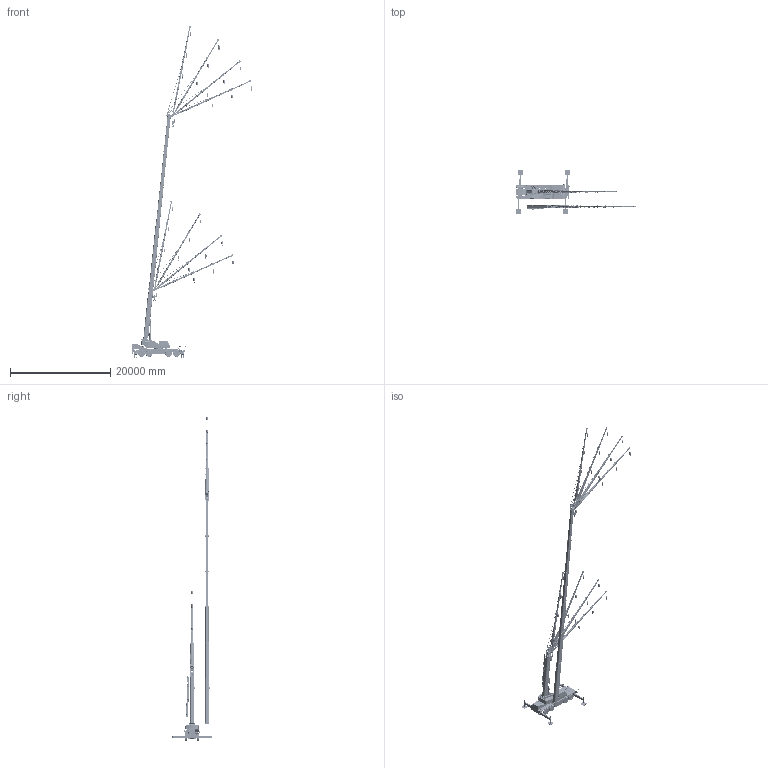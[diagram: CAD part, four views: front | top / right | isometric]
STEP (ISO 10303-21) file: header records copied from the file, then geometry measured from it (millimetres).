
FILE_DESCRIPTION(('CATIA V5 STEP Exchange','CAx-IF Rec.Pracs.--- Model Styling and Organization---1.4--- 2014-01-23'),'2;1');
FILE_NAME('\\Iba001\cad\CR\HP用CADデータ\18A\SL-750Rf3\3D\SL-750Rf3 3D.stp','2025-04-14T03:14:40+00:00',('none'),('none'),'CATIA Version 5-6 Release 2017 SP5 HF78','CATIA V5 STEP AP214','none');
FILE_SCHEMA(('AUTOMOTIVE_DESIGN { 1 0 10303 214 1 1 1 1 }'));
Products named in the file (50): SL-750Rf3 3D; SL-750Rf3 UPPER; SL-750Rf3 UPPER STRUCTURE; SL-750Rf3 TABLE; SL-750Rf3 CAB; SL-750Rf3 MACHINE ROOM; SL-750Rf3 DERRICK CYLINDER-1; SL-750Rf3 DERRICK CYLINDER-2; SL-750Rf3 BOOM JIB Min; SL-750Rf3 BOOM Min; SL-750Rf3 BOOM1; SL-750Rf3 BOOM2; SL-750Rf3 BOOM3; SL-750Rf3 BOOM4; SL-750Rf3 BOOM5; SL-750Rf3 BOOM6; SL-750Rf3 JIB; SL-750Rf3 JIB 9.52m 5deg; SL-750Rf3 JIB1; SL-750Rf3 JIB2; SL-750Rf3 JIB3; SL-750Rf3 JIB4; SL-750Rf3 JIB TENSION ROD; SL-750Rf3 JIB 9.52m 25deg; SL-750Rf3 JIB 9.52m 45deg; SL-750Rf3 JIB 9.52m 60deg; SL-750Rf3 JIB 13.8m 5deg; SL-750Rf3 JIB 13.8m 25deg; SL-750Rf3 JIB 13.8m 45deg; SL-750Rf3 JIB 13.8m 60deg; SL-750Rf3 JIB 18.0m 5deg; SL-750Rf3 JIB 18.0m 25deg; SL-750Rf3 JIB 18.0m 45deg; SL-750Rf3 JIB 18.0m 60deg; SL-750Rf3 JIB Stowed; SL-750Rf3 JIB TENSION ROD Stowed; SL-750Rf3 HOOK 5.6t; SL-750Rf3 HOOK 35t; SL-750Rf3 BOOM JIB Max; SL-750Rf3 BOOM Max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
Assembly tree (150 placements, depth 6):
  SL-750Rf3 3D
    SL-750Rf3 UPPER
      SL-750Rf3 UPPER STRUCTURE
        SL-750Rf3 TABLE
        SL-750Rf3 CAB
        SL-750Rf3 MACHINE ROOM
        SL-750Rf3 DERRICK CYLINDER-1
        SL-750Rf3 DERRICK CYLINDER-2
      SL-750Rf3 BOOM JIB Min
        SL-750Rf3 BOOM Min
          SL-750Rf3 BOOM1
          SL-750Rf3 BOOM2
          SL-750Rf3 BOOM3
          SL-750Rf3 BOOM4
          SL-750Rf3 BOOM5
          SL-750Rf3 BOOM6
        SL-750Rf3 JIB
          SL-750Rf3 JIB 9.52m 5deg
            SL-750Rf3 JIB1
            SL-750Rf3 JIB2
            SL-750Rf3 JIB3
            SL-750Rf3 JIB4
            SL-750Rf3 JIB TENSION ROD
          SL-750Rf3 JIB 9.52m 25deg
            SL-750Rf3 JIB1
            SL-750Rf3 JIB2
            SL-750Rf3 JIB3
            SL-750Rf3 JIB4
            SL-750Rf3 JIB TENSION ROD
          SL-750Rf3 JIB 9.52m 45deg
            SL-750Rf3 JIB1
            SL-750Rf3 JIB2
            SL-750Rf3 JIB3
            SL-750Rf3 JIB4
            SL-750Rf3 JIB TENSION ROD
          SL-750Rf3 JIB 9.52m 60deg
            SL-750Rf3 JIB1
            SL-750Rf3 JIB2
            SL-750Rf3 JIB3
            SL-750Rf3 JIB4
            SL-750Rf3 JIB TENSION ROD
          SL-750Rf3 JIB 13.8m 5deg
            SL-750Rf3 JIB1
            SL-750Rf3 JIB2
            SL-750Rf3 JIB3
            SL-750Rf3 JIB4
            SL-750Rf3 JIB TENSION ROD
          SL-750Rf3 JIB 13.8m 25deg
            SL-750Rf3 JIB1
            SL-750Rf3 JIB2
            SL-750Rf3 JIB3
            SL-750Rf3 JIB4
            SL-750Rf3 JIB TENSION ROD
          SL-750Rf3 JIB 13.8m 45deg
            SL-750Rf3 JIB1
            SL-750Rf3 JIB2
            SL-750Rf3 JIB3
            SL-750Rf3 JIB4
            SL-750Rf3 JIB TENSION ROD
          SL-750Rf3 JIB 13.8m 60deg
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Bounding box: 23909.38 x 8600 x 66258.94 mm (x, y, z)
Volume: 119232567845.9 mm3; surface area: 1351512807.5 mm2
Topology: 488 solids, 496 shells, 28182 faces, 76030 edges, 49573 vertices
Faces by surface type: plane 18300, cylinder 6513, extrusion 1911, torus 1134, bspline 205, cone 112, sphere 5, revolution 2
Entity records: 147463 total; most frequent: CARTESIAN_POINT 52912, ORIENTED_EDGE 21418, DIRECTION 15049, EDGE_CURVE 10709, VECTOR 7396, LINE 6999, VERTEX_POINT 6984, AXIS2_PLACEMENT_3D 4789
